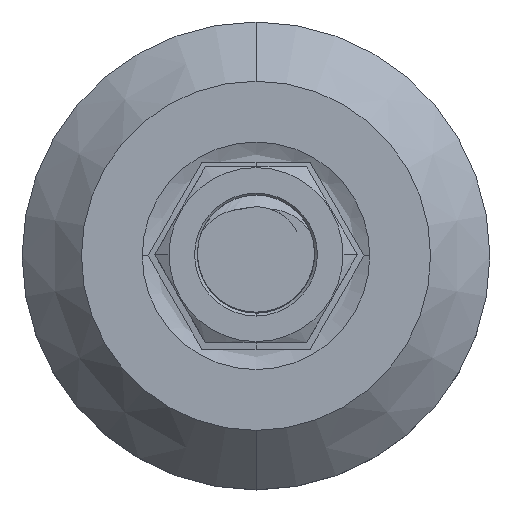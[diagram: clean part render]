
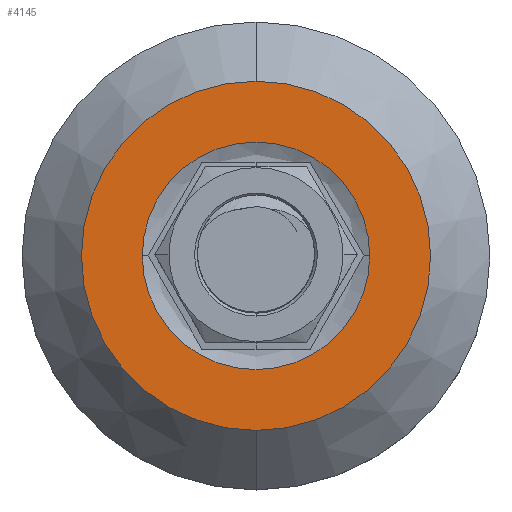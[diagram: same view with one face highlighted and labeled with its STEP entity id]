
A CAD part, top view. The second image highlights one B-rep face of the part: STEP entity #4145.
In plain terms, the highlighted planar face has unit normal (0, 0, 1).
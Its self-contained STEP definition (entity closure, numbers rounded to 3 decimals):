
#296 = EDGE_CURVE ( 'NONE', #8086, #9138, #5194, .T. ) ;
#1150 = EDGE_CURVE ( 'NONE', #2970, #6238, #5265, .T. ) ;
#1453 = EDGE_LOOP ( 'NONE', ( #10962, #11303 ) ) ;
#1482 = AXIS2_PLACEMENT_3D ( 'NONE', #4925, #11412, #5872 ) ;
#1931 = ORIENTED_EDGE ( 'NONE', *, *, #1150, .T. ) ;
#2024 = EDGE_LOOP ( 'NONE', ( #10753, #1931 ) ) ;
#2254 = CARTESIAN_POINT ( 'NONE',  ( 0., 14.929, 12. ) ) ;
#2333 = EDGE_CURVE ( 'NONE', #6238, #2970, #8015, .T. ) ;
#2916 = CARTESIAN_POINT ( 'NONE',  ( 0., 0., 12. ) ) ;
#2952 = CARTESIAN_POINT ( 'NONE',  ( 0., 0., 12. ) ) ;
#2970 = VERTEX_POINT ( 'NONE', #9890 ) ;
#3284 = DIRECTION ( 'NONE',  ( 0., 0., 1. ) ) ;
#3850 = DIRECTION ( 'NONE',  ( 1., 0., 0. ) ) ;
#3864 = FACE_BOUND ( 'NONE', #1453, .T. ) ;
#3891 = DIRECTION ( 'NONE',  ( 1., 0., 0. ) ) ;
#3909 = DIRECTION ( 'NONE',  ( 1., 0., 0. ) ) ;
#4025 = AXIS2_PLACEMENT_3D ( 'NONE', #2916, #9429, #3850 ) ;
#4145 = ADVANCED_FACE ( 'NONE', ( #3864, #8539 ), #10360, .T. ) ;
#4442 = CARTESIAN_POINT ( 'NONE',  ( 9.728, 0., 12. ) ) ;
#4925 = CARTESIAN_POINT ( 'NONE',  ( 0., 0., 12. ) ) ;
#5194 = CIRCLE ( 'NONE', #1482, 9.728 ) ;
#5265 = CIRCLE ( 'NONE', #9944, 14.929 ) ;
#5370 = EDGE_CURVE ( 'NONE', #9138, #8086, #8683, .T. ) ;
#5872 = DIRECTION ( 'NONE',  ( 1., 0., 0. ) ) ;
#6238 = VERTEX_POINT ( 'NONE', #2254 ) ;
#6542 = AXIS2_PLACEMENT_3D ( 'NONE', #2952, #9462, #3891 ) ;
#7449 = AXIS2_PLACEMENT_3D ( 'NONE', #8559, #9480, #3909 ) ;
#8015 = CIRCLE ( 'NONE', #4025, 14.929 ) ;
#8086 = VERTEX_POINT ( 'NONE', #8103 ) ;
#8103 = CARTESIAN_POINT ( 'NONE',  ( -9.728, 0., 12. ) ) ;
#8539 = FACE_OUTER_BOUND ( 'NONE', #2024, .T. ) ;
#8559 = CARTESIAN_POINT ( 'NONE',  ( -20.24, -20.24, 12. ) ) ;
#8683 = CIRCLE ( 'NONE', #6542, 9.728 ) ;
#8869 = CARTESIAN_POINT ( 'NONE',  ( 0., 0., 12. ) ) ;
#9138 = VERTEX_POINT ( 'NONE', #4442 ) ;
#9429 = DIRECTION ( 'NONE',  ( 0., 0., 1. ) ) ;
#9462 = DIRECTION ( 'NONE',  ( 0., 0., -1. ) ) ;
#9480 = DIRECTION ( 'NONE',  ( 0., 0., 1. ) ) ;
#9792 = DIRECTION ( 'NONE',  ( 1., 0., 0. ) ) ;
#9890 = CARTESIAN_POINT ( 'NONE',  ( 0., -14.929, 12. ) ) ;
#9944 = AXIS2_PLACEMENT_3D ( 'NONE', #8869, #3284, #9792 ) ;
#10360 = PLANE ( 'NONE',  #7449 ) ;
#10753 = ORIENTED_EDGE ( 'NONE', *, *, #2333, .T. ) ;
#10962 = ORIENTED_EDGE ( 'NONE', *, *, #5370, .T. ) ;
#11303 = ORIENTED_EDGE ( 'NONE', *, *, #296, .T. ) ;
#11412 = DIRECTION ( 'NONE',  ( 0., 0., -1. ) ) ;
